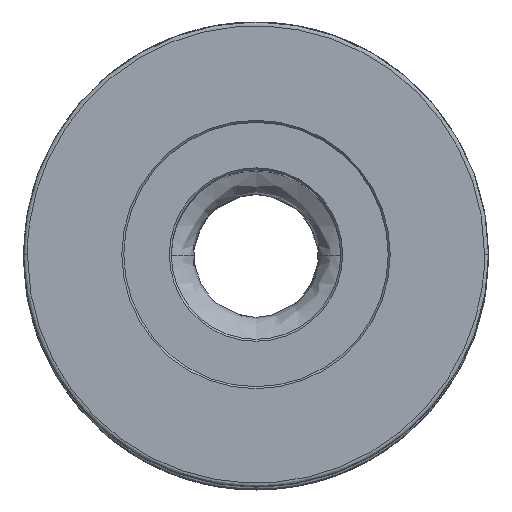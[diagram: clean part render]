
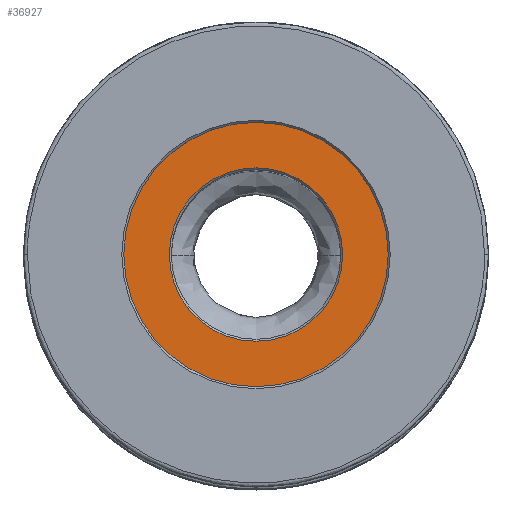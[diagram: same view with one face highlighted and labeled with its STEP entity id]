
A CAD part, top view. The second image highlights one B-rep face of the part: STEP entity #36927.
In plain terms, the highlighted planar face has unit normal (0, 0, 1).
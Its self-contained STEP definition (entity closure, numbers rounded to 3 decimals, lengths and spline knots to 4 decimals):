
#8696 = EDGE_CURVE ( 'NONE', #28021, #57482, #43693, .T. ) ;
#13654 = EDGE_LOOP ( 'NONE', ( #14168, #13826 ) ) ;
#13806 = ORIENTED_EDGE ( 'NONE', *, *, #8696, .F. ) ;
#13826 = ORIENTED_EDGE ( 'NONE', *, *, #25348, .T. ) ;
#14032 = EDGE_LOOP ( 'NONE', ( #13806, #14437 ) ) ;
#14168 = ORIENTED_EDGE ( 'NONE', *, *, #42953, .T. ) ;
#14437 = ORIENTED_EDGE ( 'NONE', *, *, #25177, .F. ) ;
#15211 = CARTESIAN_POINT ( 'NONE',  ( 0.5588, 0., -0.2489 ) ) ;
#16519 = AXIS2_PLACEMENT_3D ( 'NONE', #54637, #54638, #54639 ) ;
#16538 = AXIS2_PLACEMENT_3D ( 'NONE', #60356, #60357, #60358 ) ;
#18702 = CIRCLE ( 'NONE', #16519, 0.5588 ) ;
#18770 = CARTESIAN_POINT ( 'NONE',  ( 0.616, 0., -0.2489 ) ) ;
#18771 = PLANE ( 'NONE',  #56458 ) ;
#18776 = DIRECTION ( 'NONE',  ( 0., 0., 1. ) ) ;
#18777 = DIRECTION ( 'NONE',  ( 1., 0., 0. ) ) ;
#25177 = EDGE_CURVE ( 'NONE', #57482, #28021, #18702, .T. ) ;
#25348 = EDGE_CURVE ( 'NONE', #58858, #57478, #42098, .T. ) ;
#28021 = VERTEX_POINT ( 'NONE', #15211 ) ;
#34770 = CARTESIAN_POINT ( 'NONE',  ( 0.8522, 0., -0.2489 ) ) ;
#34772 = CARTESIAN_POINT ( 'NONE',  ( -0.5588, 0., -0.2489 ) ) ;
#34994 = CARTESIAN_POINT ( 'NONE',  ( -0.8522, 0., -0.2489 ) ) ;
#35553 = CIRCLE ( 'NONE', #56751, 0.8522 ) ;
#36927 = ADVANCED_FACE ( 'NONE', ( #42131, #41848 ), #18771, .T. ) ;
#41848 = FACE_OUTER_BOUND ( 'NONE', #13654, .T. ) ;
#42098 = CIRCLE ( 'NONE', #16538, 0.8522 ) ;
#42131 = FACE_BOUND ( 'NONE', #14032, .T. ) ;
#42953 = EDGE_CURVE ( 'NONE', #57478, #58858, #35553, .T. ) ;
#43693 = CIRCLE ( 'NONE', #49238, 0.5588 ) ;
#49238 = AXIS2_PLACEMENT_3D ( 'NONE', #55945, #55947, #55949 ) ;
#54637 = CARTESIAN_POINT ( 'NONE',  ( 0., 0., -0.2489 ) ) ;
#54638 = DIRECTION ( 'NONE',  ( 0., 0., 1. ) ) ;
#54639 = DIRECTION ( 'NONE',  ( 1., 0., 0. ) ) ;
#55945 = CARTESIAN_POINT ( 'NONE',  ( 0., 0., -0.2489 ) ) ;
#55947 = DIRECTION ( 'NONE',  ( 0., 0., 1. ) ) ;
#55949 = DIRECTION ( 'NONE',  ( 1., 0., 0. ) ) ;
#56458 = AXIS2_PLACEMENT_3D ( 'NONE', #18770, #18776, #18777 ) ;
#56751 = AXIS2_PLACEMENT_3D ( 'NONE', #67071, #67072, #67073 ) ;
#57478 = VERTEX_POINT ( 'NONE', #34770 ) ;
#57482 = VERTEX_POINT ( 'NONE', #34772 ) ;
#58858 = VERTEX_POINT ( 'NONE', #34994 ) ;
#60356 = CARTESIAN_POINT ( 'NONE',  ( 0., 0., -0.2489 ) ) ;
#60357 = DIRECTION ( 'NONE',  ( 0., 0., 1. ) ) ;
#60358 = DIRECTION ( 'NONE',  ( 1., 0., 0. ) ) ;
#67071 = CARTESIAN_POINT ( 'NONE',  ( 0., 0., -0.2489 ) ) ;
#67072 = DIRECTION ( 'NONE',  ( 0., 0., 1. ) ) ;
#67073 = DIRECTION ( 'NONE',  ( 1., 0., 0. ) ) ;
